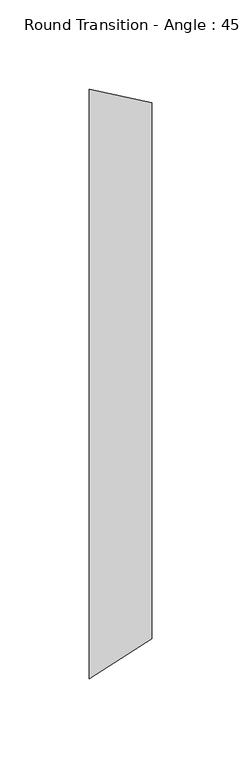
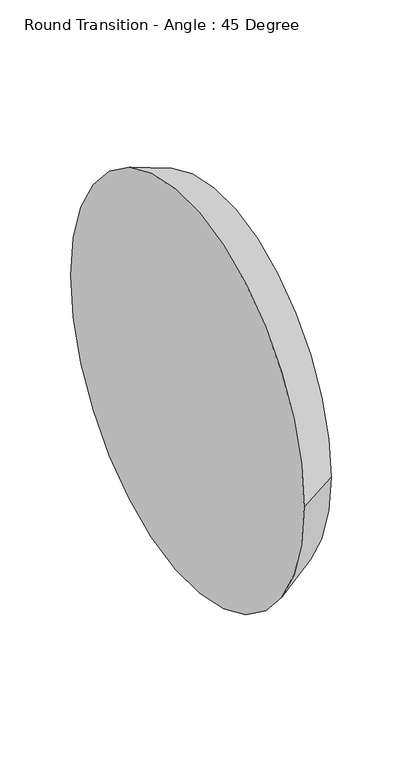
"""IFC4 building model written with IfcOpenShell, lengths in millimetres: duct fitting geometry, Round Transition - Angle : 45 Degree."""

from ifc_helpers import new_model, si_unit, frame, origin, place, context, project, spatial, circle_curve, source, transform, mapped, element, save
from ifc_brep_helpers import plane_surface, spline_surface, advanced_brep


def round_transition_angle_45_degree_53d512dd(model_context):
    return source(origin(), model_context, "Body", "AdvancedBrep", [
        advanced_brep(
        [(34.8574456, -142.5379726, 0.0), (34.8574456, 157.4620274, 0.0), (0.0, -165.0, 0.0), (0.0, 165.0, 0.0)],
        [
            (0, 1, circle_curve(frame((34.8574456, 7.4620274, 0.0), z_axis=(1.0, 0.0, 0.0), x_axis=(0.0, 1.0, 0.0)), 150.0)),
            (1, 0, circle_curve(frame((34.8574456, 7.4620274, 0.0), z_axis=(1.0, 0.0, 0.0), x_axis=(0.0, 1.0, 0.0)), 150.0)),
            (2, 3, circle_curve(frame((0.0, 0.0, 0.0), z_axis=(-1.0, 0.0, 0.0), x_axis=(0.0, 1.0, 0.0)), 165.0)),
            (3, 2, circle_curve(frame((0.0, 0.0, 0.0), z_axis=(-1.0, 0.0, 0.0), x_axis=(0.0, 1.0, 0.0)), 165.0)),
            (3, 1),
            (0, 2),
        ],
        [
            plane_surface(frame((34.8574456, 7.4620274, 0.0), z_axis=(1.0, 0.0, 0.0), x_axis=(0.0, 0.0, -1.0))),
            plane_surface(frame((0.0, 0.0, 0.0), z_axis=(-1.0, 0.0, 0.0), x_axis=(0.0, 0.0, -1.0))),
            spline_surface(2, 1, [[(0.0, -165.0, 0.0), (34.8574456, -142.5379726, 0.0)], [(0.0, -165.0, -165.0), (34.8574456, -142.5379726, -150.0)], [(0.0, 0.0, -165.0), (34.8574456, 7.4620274, -150.0)], [(0.0, 165.0, -165.0), (34.8574456, 157.4620274, -150.0)], [(0.0, 165.0, 0.0), (34.8574456, 157.4620274, 0.0)]], [3, 2, 3], [2, 2], [0.0, 1.0, 2.0], [0.0, 1.0], weights=[[1.0, 1.0], [0.7071067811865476, 0.7071067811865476], [1.0, 1.0], [0.7071067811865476, 0.7071067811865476], [1.0, 1.0]]),
            spline_surface(2, 1, [[(0.0, 165.0, 0.0), (34.8574456, 157.4620274, 0.0)], [(0.0, 165.0, 165.0), (34.8574456, 157.4620274, 150.0)], [(0.0, 0.0, 165.0), (34.8574456, 7.4620274, 150.0)], [(0.0, -165.0, 165.0), (34.8574456, -142.5379726, 150.0)], [(0.0, -165.0, 0.0), (34.8574456, -142.5379726, 0.0)]], [3, 2, 3], [2, 2], [0.0, 1.0, 2.0], [0.0, 1.0], weights=[[1.0, 1.0], [0.7071067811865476, 0.7071067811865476], [1.0, 1.0], [0.7071067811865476, 0.7071067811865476], [1.0, 1.0]]),
        ],
        [
            (0, [[1, 2]]),
            (1, [[3, 4]]),
            (2, [[-4, 5, -1, 6]]),
            (3, [[-3, -6, -2, -5]]),
        ],
    ),
    ])


if __name__ == "__main__":
    model = new_model("IFC4")
    model_context = context("Model", 3, world=origin())
    ifc_project = project(units=[si_unit("LENGTHUNIT", "METRE", prefix="MILLI")], contexts=[model_context])
    site = spatial("IfcSite", under=ifc_project)
    building = spatial("IfcBuilding", under=site)
    placement = place(None, origin())
    round_transition_angle_45_degree_shape = round_transition_angle_45_degree_53d512dd(model_context)
    element("IfcDuctFitting", 1, ObjectType="Round Transition - Angle : 45 Degree", at=placement, inside=building, context=model_context, shape_type="MappedRepresentation", body=[
        mapped(round_transition_angle_45_degree_shape, transform((0.0, 0.0, 0.0), x_axis=(1.0, 0.0, 0.0), y_axis=(0.0, 1.0, 0.0), z_axis=(0.0, 0.0, 1.0))),
    ])
    save(model, "model.ifc")
